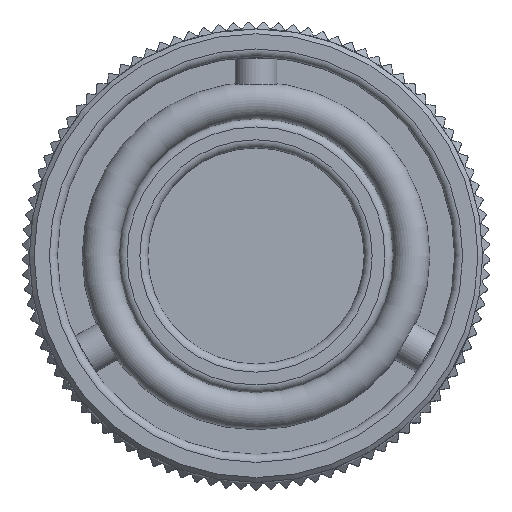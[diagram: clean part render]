
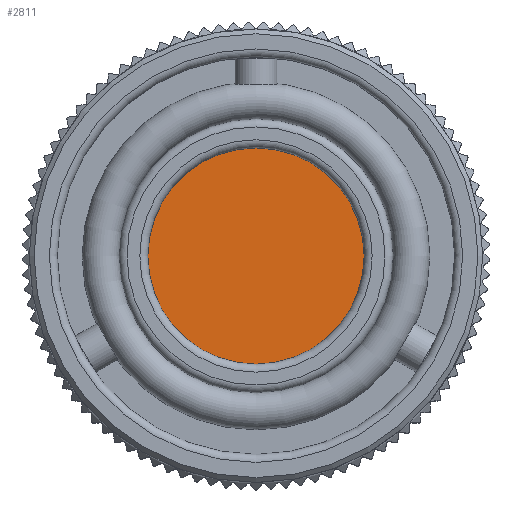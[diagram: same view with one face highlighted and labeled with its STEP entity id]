
A CAD part, top view. The second image highlights one B-rep face of the part: STEP entity #2811.
In plain terms, the highlighted planar face has unit normal (0, 0, 1).
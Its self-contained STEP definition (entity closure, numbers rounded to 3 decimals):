
#797 = CARTESIAN_POINT ( 'NONE',  ( 6.75, 0., -13.7 ) ) ;
#2811 = ADVANCED_FACE ( 'NONE', ( #25592 ), #13722, .T. ) ;
#3126 = CIRCLE ( 'NONE', #13734, 6.75 ) ;
#6429 = ORIENTED_EDGE ( 'NONE', *, *, #19702, .T. ) ;
#9491 = DIRECTION ( 'NONE',  ( 0., 0., 1. ) ) ;
#11800 = DIRECTION ( 'NONE',  ( 0., 0., 1. ) ) ;
#13722 = PLANE ( 'NONE',  #14588 ) ;
#13734 = AXIS2_PLACEMENT_3D ( 'NONE', #21509, #9491, #23494 ) ;
#14588 = AXIS2_PLACEMENT_3D ( 'NONE', #21695, #11800, #25782 ) ;
#15446 = EDGE_LOOP ( 'NONE', ( #6429 ) ) ;
#19702 = EDGE_CURVE ( 'NONE', #21618, #21618, #3126, .T. ) ;
#21509 = CARTESIAN_POINT ( 'NONE',  ( 0., 0., -13.7 ) ) ;
#21618 = VERTEX_POINT ( 'NONE', #797 ) ;
#21695 = CARTESIAN_POINT ( 'NONE',  ( 0., 2.016, -13.7 ) ) ;
#23494 = DIRECTION ( 'NONE',  ( 1., 0., 0. ) ) ;
#25592 = FACE_OUTER_BOUND ( 'NONE', #15446, .T. ) ;
#25782 = DIRECTION ( 'NONE',  ( 1., 0., 0. ) ) ;
